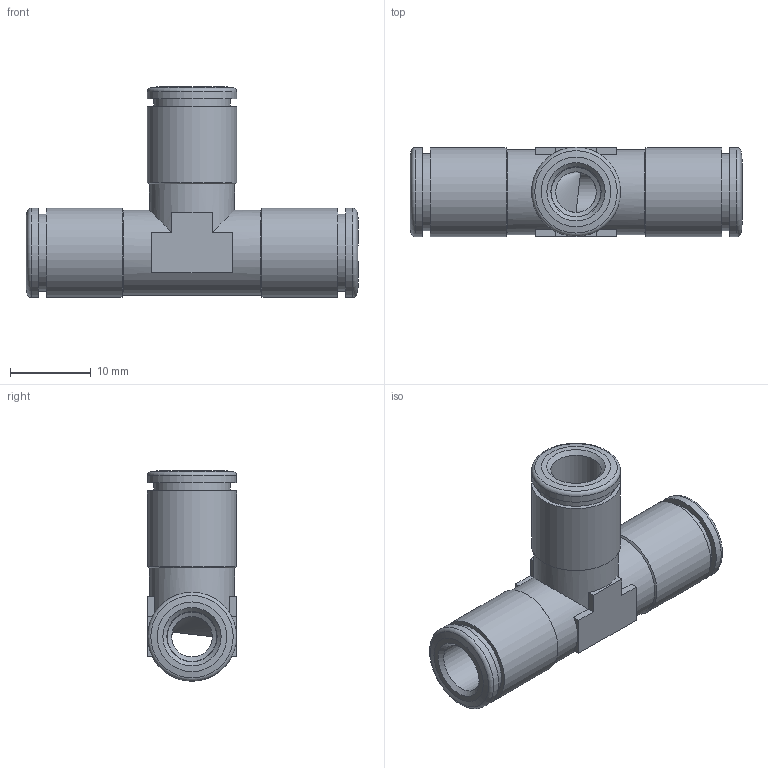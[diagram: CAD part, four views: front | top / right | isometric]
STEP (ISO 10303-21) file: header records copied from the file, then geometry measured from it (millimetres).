
FILE_DESCRIPTION(/* description */ (''),/* implementation_level */ '2;1');
FILE_NAME(/* name */ '200503-ES_STX05_6_20.06.16',/* time_stamp */ '2016-06-20T12:12:14+02:00',/* author */ (''),/* organization */ (''),/* preprocessor_version */ 'ST-DEVELOPER v16.5',/* originating_system */ 'HiCAD 2016 2101.0 Build 254',/* authorisation */ '');
FILE_SCHEMA (('AUTOMOTIVE_DESIGN { 1 0 10303 214 1 1 1 1 }'));
Length unit declared in the file: millimetre
Products named in the file (5): Root; R290606-N1; DR6-1_NEU
Assembly tree (4 placements, depth 2):
  Root
    R290606-N1
    DR6-1_NEU
    DR6-1_NEU
    DR6-1_NEU
Bounding box: 41 x 11 x 26 mm (x, y, z)
Volume: 2998.5 mm3; surface area: 4708.5 mm2
Topology: 4 solids, 4 shells, 91 faces, 192 edges, 114 vertices
Faces by surface type: plane 33, cylinder 28, cone 27, torus 3
Full cylindrical faces by diameter (mm): 5 x2, 6.1 x3, 6.2 x3, 8.3 x3, 9 x3, 9.5 x3, 9.6 x3, 10.5 x2, 11 x6
Entity records: 3405 total; most frequent: DIRECTION 404, CARTESIAN_POINT 329, PRESENTATION_STYLE_ASSIGNMENT 252, COLOUR_RGB 249, DRAUGHTING_PRE_DEFINED_CURVE_FONT 248, CURVE_STYLE 248, OVER_RIDING_STYLED_ITEM 248, ORIENTED_EDGE 248
